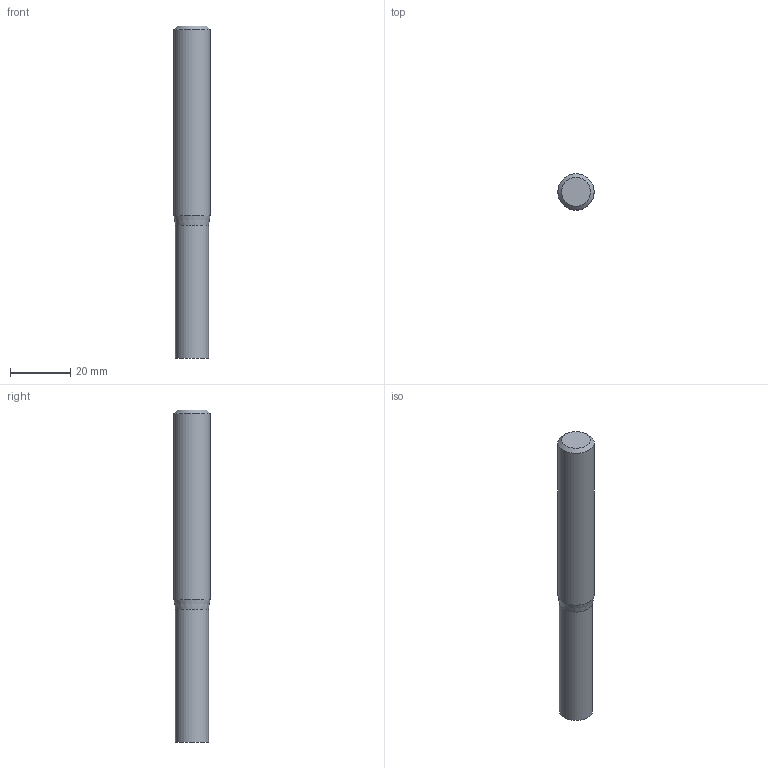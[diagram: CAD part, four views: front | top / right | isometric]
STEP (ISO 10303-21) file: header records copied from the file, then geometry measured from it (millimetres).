
FILE_DESCRIPTION((''),'2;1');
FILE_NAME('C:\Users\nsx150\AppData\Local\Temp\Mastercam 2021\W9Z147XDNF\TEMP.step','2021-04-08T14:47:28',(''),(''),'STEP Write','Mastercam 2021 ... CNC Software, Inc.','');
FILE_SCHEMA(('AUTOMOTIVE_DESIGN'));
Length unit declared in the file: millimetre
Products named in the file (1): None
Bounding box: 12 x 12 x 110 mm (x, y, z)
Volume: 11591.6 mm3; surface area: 4375 mm2
Topology: 2 solids, 2 shells, 8 faces, 10 edges, 6 vertices
Faces by surface type: plane 4, cylinder 2, cone 2
Full cylindrical faces by diameter (mm): 11 x1, 12 x1
Entity records: 190 total; most frequent: DIRECTION 32, CARTESIAN_POINT 22, AXIS2_PLACEMENT_3D 16, ORIENTED_EDGE 12, EDGE_LOOP 12, STYLED_ITEM 11, ADVANCED_FACE 8, VERTEX_POINT 6
